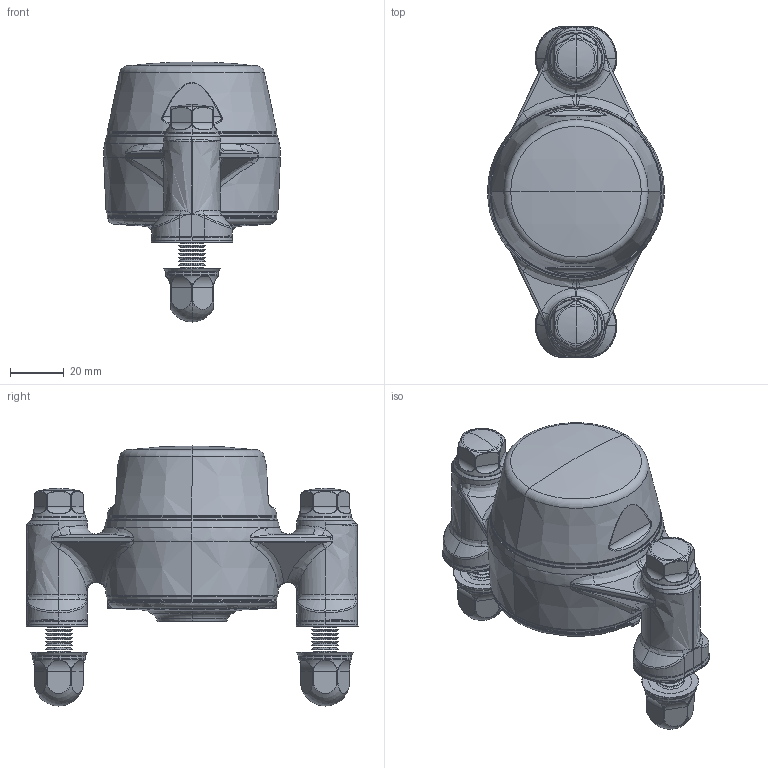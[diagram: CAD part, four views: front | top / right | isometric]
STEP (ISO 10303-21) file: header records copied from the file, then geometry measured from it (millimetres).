
FILE_DESCRIPTION (( 'STEP AP203' ), '1' );
FILE_NAME ('XB2FC52(White)-CSB2500(Front)-CL(Blue)-OS(White)-BXHM1055-NDXHM10_Shell.step', '2020-09-24T06:53:34', ( '' ), ( '' ), 'SwSTEP 2.0', 'SolidWorks 2019', '' );
FILE_SCHEMA (( 'CONFIG_CONTROL_DESIGN' ));
Length unit declared in the file: millimetre
Products named in the file (1): XB2FC52(White)-CSB2500(Front)-CL(Blue)-OS(White)-BXHM1055-NDXHM10_Shell
Bounding box: 65.77 x 123.4 x 96.65 mm (x, y, z)
Surface area: 40563 mm2 (no closed solid volume)
Topology: 0 solids, 46 shells, 954 faces, 3056 edges, 2063 vertices
Faces by surface type: bspline 346, cylinder 200, torus 170, cone 105, plane 101, sphere 32
Entity records: 54179 total; most frequent: CARTESIAN_POINT 30955, ORIENTED_EDGE 4973, DIRECTION 4037, EDGE_CURVE 3052, VERTEX_POINT 2063, AXIS2_PLACEMENT_3D 1721, B_SPLINE_CURVE_WITH_KNOTS 1275, CIRCLE 1112
